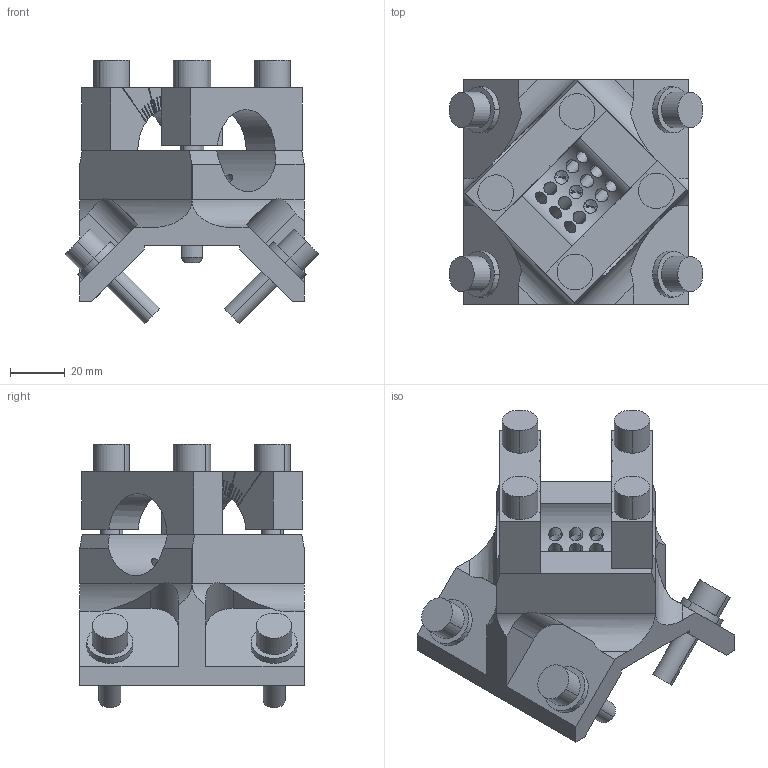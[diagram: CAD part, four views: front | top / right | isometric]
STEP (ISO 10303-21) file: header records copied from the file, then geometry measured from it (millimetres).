
FILE_DESCRIPTION(('STEP AP214'),'1');
FILE_NAME('EGT121_1729220_80RD30-X45_LI.CATPart.stp','2015-09-14T13:09:11',('3D-Tool'),(' '),'Spatial InterOp 3D',' ',' ');
FILE_SCHEMA(('automotive_design'));
Length unit declared in the file: millimetre
Products named in the file (12): EGT121_1729220_80RD30-X45_LI|EGT121_80RD30-X45_LI|Bohrbearbeitung; EGT121_1729220_80RD30-X45_LI|EGT205_SCHELLE_RD30_1|Assemble.75; EGT121_1729220_80RD30-X45_LI|EGT205_SCHELLE_RD30_2|Assemble.76; 1; 2; 3; 4; EGT121_1729220_80RD30-X45_LI|EGT_212_ZENTRIERSTIFT|Pocket.9; 5; 6; 7; 8
Bounding box: 92.77 x 82 x 96.36 mm (x, y, z)
Volume: 177609.8 mm3; surface area: 56675.6 mm2
Topology: 12 solids, 12 shells, 497 faces, 1278 edges, 763 vertices
Faces by surface type: plane 216, cylinder 187, cone 94
Entity records: 20201 total; most frequent: CARTESIAN_POINT 4386, ORIENTED_EDGE 2404, DIRECTION 2374, EDGE_CURVE 1202, AXIS2_PLACEMENT_3D 855, VERTEX_POINT 763, LINE 664, VECTOR 664
